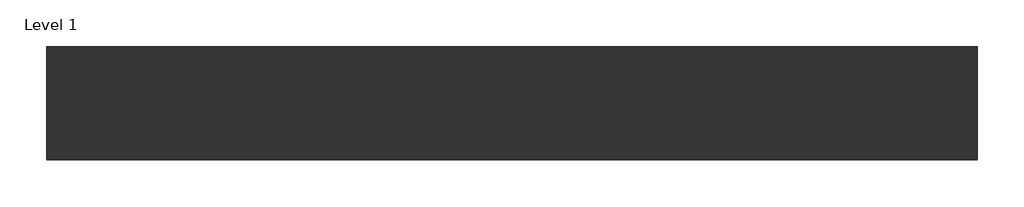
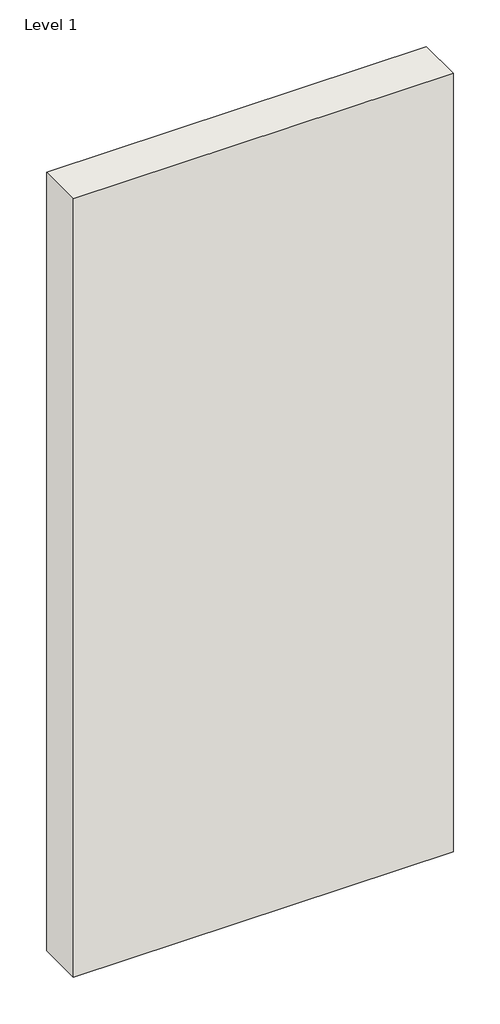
# One storey: 1 wall.
"""IFC4 building model written with IfcOpenShell, lengths in millimetres."""

from ifc_helpers import new_model, si_unit, origin, origin_with_axes, place, context, project, spatial, polyline, outline, extrude, element, save

model = new_model("IFC4")

# Units and contexts
model_context = context("Model", 3, world=origin())
ifc_project = project(units=[si_unit("LENGTHUNIT", "METRE", prefix="MILLI")], contexts=[model_context])

# Site, building, storey
site = spatial("IfcSite", under=ifc_project)
building = spatial("IfcBuilding", under=site)
storey = spatial("IfcBuildingStorey", under=building, Name="Level 1", Elevation=0.0)

# Wall
placement = place(None, origin())
element("IfcWall", 1, ObjectType="Tabique Doble – Placo® 146(48) 2xBA13 + 2x48LM + 2xBA13 c/600 - 55,9 dBA", at=placement, inside=storey, context=model_context, shape_type="SweptSolid", body=[
    extrude(outline(polyline([(-28676.4711674, -80618.3970389), (-29876.4711674, -80618.3970389), (-29876.4711674, -80472.3970389), (-28676.4711674, -80472.3970389), (-28676.4711674, -80618.3970389)])), origin_with_axes(), (0.0, 0.0, 1.0), 2600.0),
])

save(model, "model.ifc")
